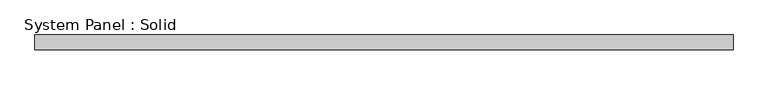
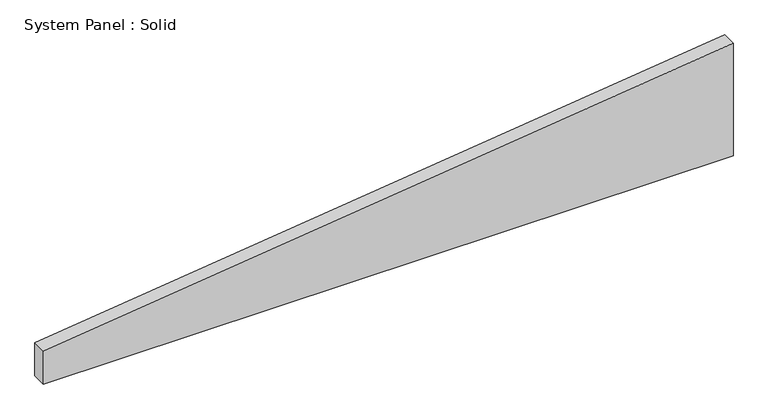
"""IFC4 building model written with IfcOpenShell, lengths in millimetres: plate geometry, System Panel : Solid."""

from ifc_helpers import new_model, si_unit, frame, origin, place, context, project, spatial, polyline, outline, extrude, source, transform, mapped, element, save


def system_panel_solid_976d1366(model_context):
    return source(origin(), model_context, "Body", "SweptSolid", [
        extrude(outline(polyline([(0.0, -1492.25), (0.0, 1492.25), (513.8154307, 1492.25), (149.6418933, -1492.25), (0.0, -1492.25)])), frame((0.0, -19.05, 0.0), z_axis=(0.0, 1.0, 0.0), x_axis=(0.0, 0.0, 1.0)), (0.0, 0.0, 1.0), 63.5),
    ])


if __name__ == "__main__":
    model = new_model("IFC4")
    model_context = context("Model", 3, world=origin())
    ifc_project = project(units=[si_unit("LENGTHUNIT", "METRE", prefix="MILLI")], contexts=[model_context])
    site = spatial("IfcSite", under=ifc_project)
    building = spatial("IfcBuilding", under=site)
    placement = place(None, origin())
    system_panel_solid_shape = system_panel_solid_976d1366(model_context)
    element("IfcPlate", 1, ObjectType="System Panel : Solid", at=placement, inside=building, context=model_context, shape_type="MappedRepresentation", body=[
        mapped(system_panel_solid_shape, transform((0.0, 0.0, 0.0), x_axis=(1.0, 0.0, 0.0), y_axis=(0.0, 1.0, 0.0), z_axis=(0.0, 0.0, 1.0))),
    ])
    save(model, "model.ifc")
